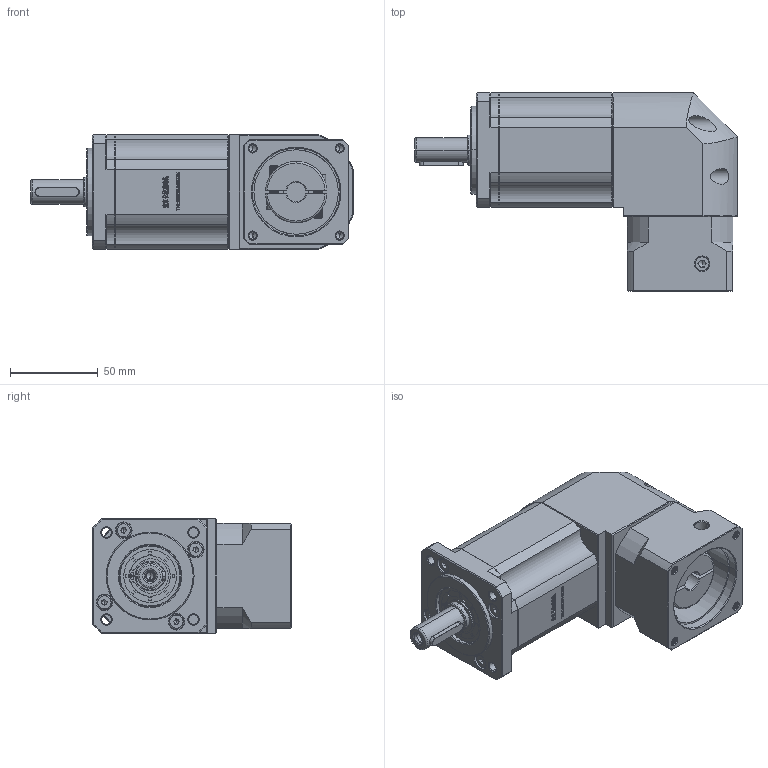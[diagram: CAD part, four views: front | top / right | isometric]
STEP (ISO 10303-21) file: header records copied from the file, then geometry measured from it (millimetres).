
FILE_DESCRIPTION (( 'STEP AP214' ), '1' );
FILE_NAME ('ZBR60-D14-L3-11-50-70-M5.STEP', '2022-04-19T08:27:44', ( '' ), ( 'Microsoft' ), 'SwSTEP 2.0', 'SolidWorks 2016', '' );
FILE_SCHEMA (( 'AUTOMOTIVE_DESIGN' ));
Length unit declared in the file: millimetre
Products named in the file (1): ZBR60-D14-L3-11-50-70-M5
Bounding box: 183.5 x 112.7 x 65 mm (x, y, z)
Volume: 646718.3 mm3; surface area: 85785.9 mm2
Topology: 5 solids, 5 shells, 2843 faces, 7713 edges, 5006 vertices
Faces by surface type: plane 1472, bspline 579, cylinder 432, cone 326, torus 34
Entity records: 155105 total; most frequent: CARTESIAN_POINT 56481, ORIENTED_EDGE 15366, DIRECTION 11725, EDGE_CURVE 7683, LINE 5057, VECTOR 5057, VERTEX_POINT 5006, AXIS2_PLACEMENT_3D 3334
